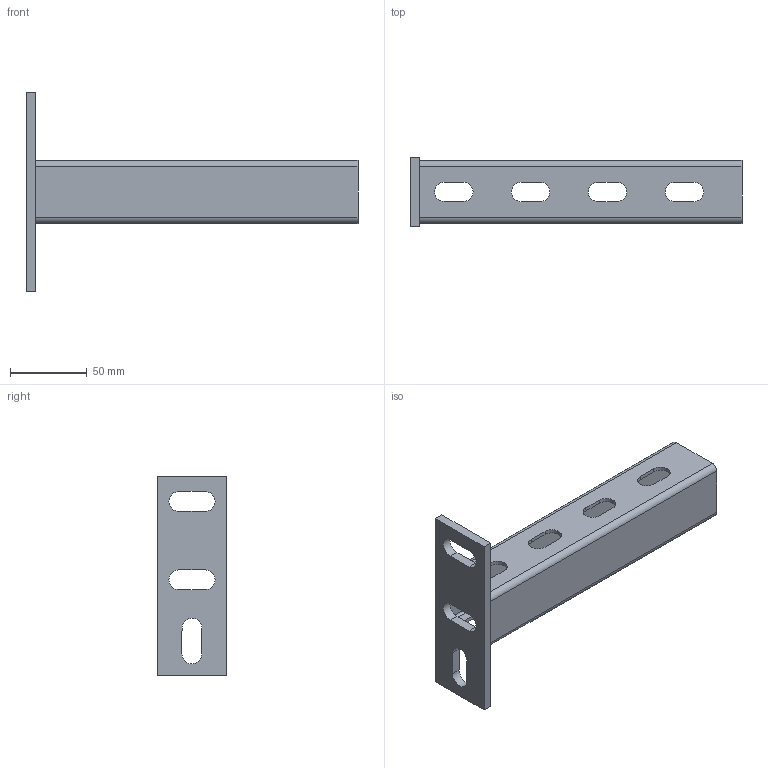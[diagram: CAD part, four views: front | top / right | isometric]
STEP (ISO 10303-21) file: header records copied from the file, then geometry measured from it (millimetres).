
FILE_DESCRIPTION(/* description */ (''),/* implementation_level */ '2;1');
FILE_NAME(/* name */ 'GE-KDH-L210.step',/* time_stamp */ '2025-05-12T11:39:21+03:00',/* author */ (''),/* organization */ (''),/* preprocessor_version */ 'ST-DEVELOPER v20.1',/* originating_system */ 'Autodesk Translation Framework v14.4.0.0',/* authorisation */ '');
FILE_SCHEMA (('AUTOMOTIVE_DESIGN { 1 0 10303 214 3 1 1 }'));
Length unit declared in the file: millimetre
Products named in the file (1): GE-KDH 41x41-L210
Bounding box: 216 x 45 x 130 mm (x, y, z)
Volume: 93315.8 mm3; surface area: 67008.9 mm2
Topology: 2 solids, 2 shells, 56 faces, 156 edges, 104 vertices
Faces by surface type: plane 34, cylinder 22
Entity records: 1864 total; most frequent: CARTESIAN_POINT 317, DIRECTION 314, ORIENTED_EDGE 312, EDGE_CURVE 156, LINE 112, VECTOR 112, VERTEX_POINT 104, AXIS2_PLACEMENT_3D 101
